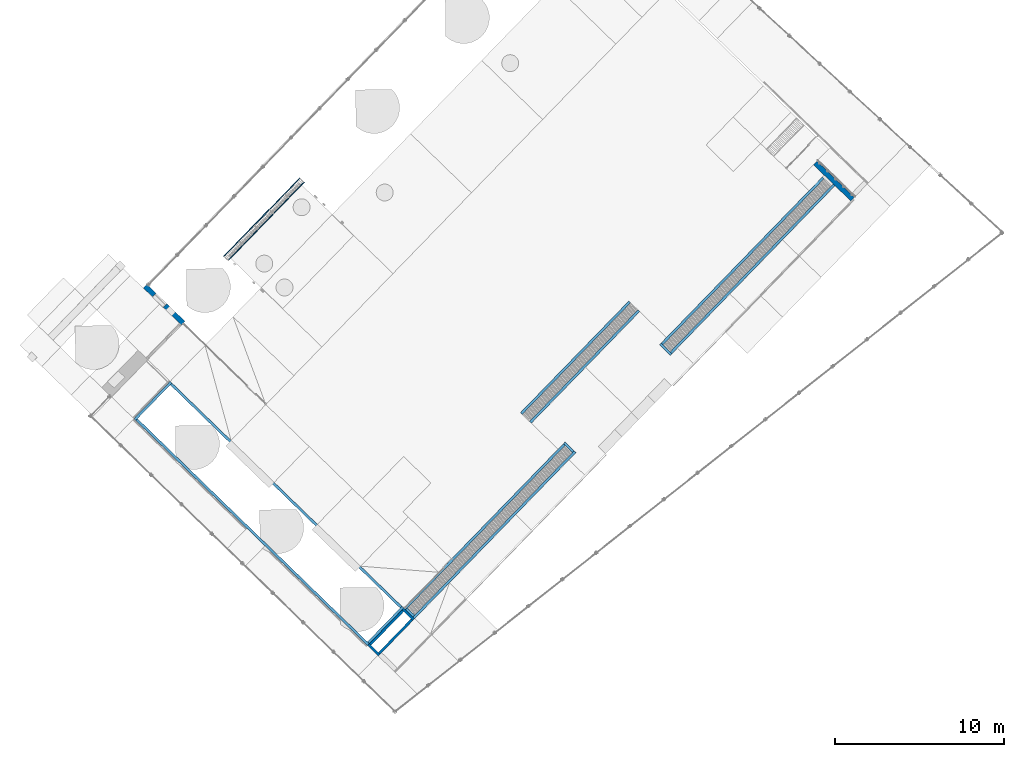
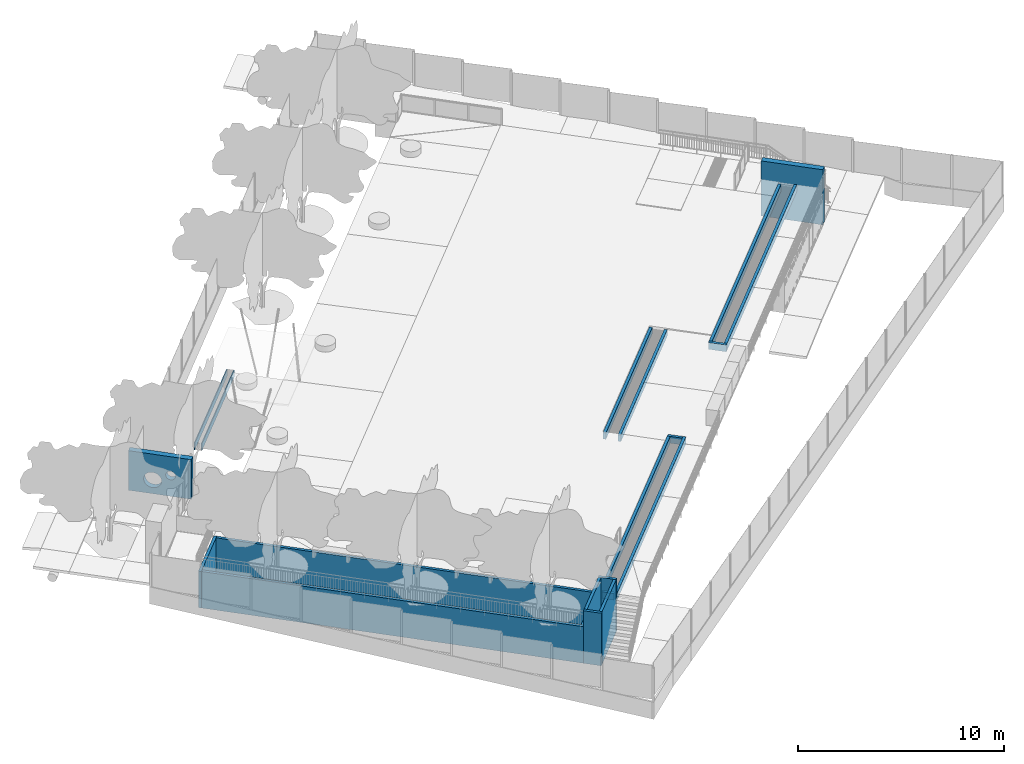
# One storey, part 19 of 37: 21 walls, 2 openings.
"""IFC2X3 building model written with IfcOpenShell, lengths in centimetres."""

from ifc_helpers import new_model, entity, si_unit, converted_unit, derived_unit, direction, frame, frame_2d, origin, place, context, subcontext, project, spatial, rectangle, circle, extrude, material, layer, layer_set, layer_usage, type_object, element, save


model = new_model("IFC2X3")

# Units and contexts
model_context = context("Model", 3, precision=0.001, world=origin(), true_north=direction((0.717475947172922, 0.696583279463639)))
body_context = subcontext(model_context, "Body", "Model", "MODEL_VIEW")
ifc_project = project(units=[si_unit("LENGTHUNIT", "METRE", prefix="CENTI"), si_unit("AREAUNIT", "SQUARE_METRE"), si_unit("VOLUMEUNIT", "CUBIC_METRE"), converted_unit("PLANEANGLEUNIT", "DEGREE", entity("IfcRatioMeasure", 0.0174532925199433), si_unit("PLANEANGLEUNIT", "RADIAN"), dimensions=[0, 0, 0, 0, 0, 0, 0]), si_unit("MASSUNIT", "GRAM", prefix="KILO"), derived_unit("MASSDENSITYUNIT", [(si_unit("MASSUNIT", "GRAM", prefix="KILO"), 1), (si_unit("LENGTHUNIT", "METRE"), -3)]), si_unit("TIMEUNIT", "SECOND"), si_unit("FREQUENCYUNIT", "HERTZ"), si_unit("THERMODYNAMICTEMPERATUREUNIT", "DEGREE_CELSIUS"), derived_unit("THERMALTRANSMITTANCEUNIT", [(si_unit("MASSUNIT", "GRAM", prefix="KILO"), 1), (si_unit("THERMODYNAMICTEMPERATUREUNIT", "KELVIN"), -1), (si_unit("TIMEUNIT", "SECOND"), -3)]), derived_unit("VOLUMETRICFLOWRATEUNIT", [(si_unit("LENGTHUNIT", "METRE"), 3), (si_unit("TIMEUNIT", "SECOND"), -1)]), si_unit("ELECTRICCURRENTUNIT", "AMPERE"), si_unit("ELECTRICVOLTAGEUNIT", "VOLT"), si_unit("POWERUNIT", "WATT"), si_unit("FORCEUNIT", "NEWTON", prefix="KILO"), si_unit("ILLUMINANCEUNIT", "LUX"), si_unit("LUMINOUSFLUXUNIT", "LUMEN"), si_unit("LUMINOUSINTENSITYUNIT", "CANDELA"), derived_unit("USERDEFINED", [(si_unit("MASSUNIT", "GRAM", prefix="KILO"), -1), (si_unit("LENGTHUNIT", "METRE"), -2), (si_unit("TIMEUNIT", "SECOND"), 3), (si_unit("LUMINOUSFLUXUNIT", "LUMEN"), 1)]), derived_unit("LINEARVELOCITYUNIT", [(si_unit("LENGTHUNIT", "METRE"), 1), (si_unit("TIMEUNIT", "SECOND"), -1)]), si_unit("PRESSUREUNIT", "PASCAL"), derived_unit("USERDEFINED", [(si_unit("LENGTHUNIT", "METRE"), -2), (si_unit("MASSUNIT", "GRAM", prefix="KILO"), 1), (si_unit("TIMEUNIT", "SECOND"), -2)])], contexts=[model_context])

# Site, building, storey
site_placement = place(None, frame((0.0, 0.0, 0.0), z_axis=(0.0, 0.0, 1.0), x_axis=(0.696583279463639, 0.717475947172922, 0.0)))
site = spatial("IfcSite", under=ifc_project, at=site_placement, Name="Surface", CompositionType="ELEMENT")
building_placement = place(site_placement, origin())
building = spatial("IfcBuilding", under=site, at=building_placement, CompositionType="ELEMENT")
storey_placement = place(building_placement, origin())
storey = spatial("IfcBuildingStorey", under=building, at=storey_placement, Name="Nivel 0.00", CompositionType="ELEMENT", Elevation=0.0)

# Walls
ifc_material_1 = material(Name="Concrete, Cast-in-Place gray")
ifc_layer_1 = layer(ifc_material_1, 15.0)
ifc_layer_set_1 = layer_set([ifc_layer_1], Name="Basic Wall:ARQ_FND_HA_150mm")
ifc_layer_usage_1 = layer_usage(ifc_layer_set_1, "AXIS2", "POSITIVE", -7.5)
wall_type_1 = type_object("IfcWallType", Name="Basic Wall:ARQ_FND_HA_150mm", PredefinedType="STANDARD", material=ifc_layer_set_1)
wall_1_placement = place(storey_placement, frame((-551.97329106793, -1352.55485725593, 110.0), z_axis=(0.0, 0.0, 1.0), x_axis=(-1.0, 0.0, 0.0)))
element("IfcWallStandardCase", 1, at=wall_1_placement, inside=storey, type_object=wall_type_1, material=ifc_layer_usage_1, Name="Basic Wall:ARQ_FND_HA_150mm", ObjectType="Basic Wall:ARQ_FND_HA_150mm", context=body_context, shape_type="SweptSolid", body=[
    extrude(rectangle(XDim=1353.78385907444, YDim=15.0000000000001, at=frame_2d((676.891929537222, 2.97539770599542e-14), x_axis=(-1.0, 0.0))), origin(), (0.0, 0.0, 1.0), 40.0),
])
ifc_layer_usage_2 = layer_usage(ifc_layer_set_1, "AXIS2", "POSITIVE", -7.5)
wall_2_placement = place(storey_placement, frame((-1898.25715014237, -1360.05485725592, 110.0), z_axis=(0.0, 0.0, 1.0), x_axis=(0.0, -1.0, 0.0)))
element("IfcWallStandardCase", 2, at=wall_2_placement, inside=storey, type_object=wall_type_1, material=ifc_layer_usage_2, Name="Basic Wall:ARQ_FND_HA_150mm", ObjectType="Basic Wall:ARQ_FND_HA_150mm", context=body_context, shape_type="SweptSolid", body=[
    extrude(rectangle(XDim=59.9911451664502, YDim=15.0000000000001, at=frame_2d((29.9955725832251, -4.30766533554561e-14), x_axis=(-1.0, 0.0))), origin(), (0.0, 0.0, 1.0), 40.0),
])
ifc_layer_usage_3 = layer_usage(ifc_layer_set_1, "AXIS2", "POSITIVE", -7.5)
wall_3_placement = place(storey_placement, frame((-1905.75715014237, -1427.54600242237, 110.0)))
element("IfcWallStandardCase", 3, at=wall_3_placement, inside=storey, type_object=wall_type_1, material=ifc_layer_usage_3, Name="Basic Wall:ARQ_FND_HA_150mm", ObjectType="Basic Wall:ARQ_FND_HA_150mm", context=body_context, shape_type="SweptSolid", body=[
    extrude(rectangle(XDim=1368.78385907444, YDim=15.0000000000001, at=frame_2d((684.391929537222, 4.44089209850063e-16), x_axis=(-1.0, 0.0))), origin(), (0.0, 0.0, 1.0), 40.0),
])
ifc_layer_usage_4 = layer_usage(ifc_layer_set_1, "AXIS2", "POSITIVE", -7.5)
wall_4_placement = place(storey_placement, frame((-544.47329106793, -1420.04600242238, 110.0), z_axis=(0.0, 0.0, 1.0), x_axis=(0.0, 1.0, 0.0)))
element("IfcWallStandardCase", 4, at=wall_4_placement, inside=storey, type_object=wall_type_1, material=ifc_layer_usage_4, Name="Basic Wall:ARQ_FND_HA_150mm", ObjectType="Basic Wall:ARQ_FND_HA_150mm", context=body_context, shape_type="SweptSolid", body=[
    extrude(rectangle(XDim=74.9911451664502, YDim=15.0000000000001, at=frame_2d((37.4955725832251, -1.37667655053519e-14), x_axis=(-1.0, 0.0))), origin(), (0.0, 0.0, 1.0), 40.0),
])
ifc_layer_usage_5 = layer_usage(ifc_layer_set_1, "AXIS2", "POSITIVE", -7.5)
wall_5_placement = place(storey_placement, frame((270.248425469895, -1345.05485725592, 110.0), z_axis=(0.0, 0.0, 1.0), x_axis=(0.0, -1.0, 0.0)))
element("IfcWallStandardCase", 5, at=wall_5_placement, inside=storey, type_object=wall_type_1, material=ifc_layer_usage_5, Name="Basic Wall:ARQ_FND_HA_150mm", ObjectType="Basic Wall:ARQ_FND_HA_150mm", context=body_context, shape_type="SweptSolid", body=[
    extrude(rectangle(XDim=89.9911465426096, YDim=15.0000000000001, at=frame_2d((44.9955732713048, -7.99360577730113e-15), x_axis=(-1.0, 0.0))), origin(), (0.0, 0.0, 1.0), 40.0),
])
ifc_layer_usage_6 = layer_usage(ifc_layer_set_1, "AXIS2", "POSITIVE", -7.5)
wall_6_placement = place(storey_placement, frame((277.748425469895, -1427.54600379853, 110.0)))
element("IfcWallStandardCase", 6, at=wall_6_placement, inside=storey, type_object=wall_type_1, material=ifc_layer_usage_6, Name="Basic Wall:ARQ_FND_HA_150mm", ObjectType="Basic Wall:ARQ_FND_HA_150mm", context=body_context, shape_type="SweptSolid", body=[
    extrude(rectangle(XDim=1382.80407940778, YDim=15.0000000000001, at=frame_2d((691.402039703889, -6.70574706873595e-14), x_axis=(-1.0, 0.0))), origin(), (0.0, 0.0, 1.0), 40.0),
])
ifc_layer_usage_7 = layer_usage(ifc_layer_set_1, "AXIS2", "POSITIVE", -7.5)
wall_7_placement = place(storey_placement, frame((1645.55250487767, -1352.55485725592, 110.0), z_axis=(0.0, 0.0, 1.0), x_axis=(-1.0, 0.0, 0.0)))
element("IfcWallStandardCase", 7, at=wall_7_placement, inside=storey, type_object=wall_type_1, material=ifc_layer_usage_7, Name="Basic Wall:ARQ_FND_HA_150mm", ObjectType="Basic Wall:ARQ_FND_HA_150mm", context=body_context, shape_type="SweptSolid", body=[
    extrude(rectangle(XDim=1367.80407940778, YDim=15.0000000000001, at=frame_2d((683.902039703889, 1.06581410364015e-14), x_axis=(-1.0, 0.0))), origin(), (0.0, 0.0, 1.0), 40.0),
])
ifc_layer_usage_8 = layer_usage(ifc_layer_set_1, "AXIS2", "POSITIVE", -7.5)
wall_8_placement = place(storey_placement, frame((-597.005577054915, -1042.55617628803, 110.0)))
element("IfcWallStandardCase", 8, at=wall_8_placement, inside=storey, type_object=wall_type_1, material=ifc_layer_usage_8, Name="Basic Wall:ARQ_FND_HA_150mm", ObjectType="Basic Wall:ARQ_FND_HA_150mm", context=body_context, shape_type="SweptSolid", body=[
    extrude(rectangle(XDim=919.720220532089, YDim=15.0000000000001, at=frame_2d((459.860110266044, -2.70894418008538e-14), x_axis=(-1.0, 0.0))), origin(), (0.0, 0.0, 1.0), 38.0),
])
ifc_layer_usage_9 = layer_usage(ifc_layer_set_1, "AXIS2", "POSITIVE", -7.5)
wall_9_placement = place(storey_placement, frame((-597.005577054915, -1117.55609004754, 110.0)))
element("IfcWallStandardCase", 9, at=wall_9_placement, inside=storey, type_object=wall_type_1, material=ifc_layer_usage_9, Name="Basic Wall:ARQ_FND_HA_150mm", ObjectType="Basic Wall:ARQ_FND_HA_150mm", context=body_context, shape_type="SweptSolid", body=[
    extrude(rectangle(XDim=919.720220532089, YDim=15.0000000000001, at=frame_2d((459.860110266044, 5.41788836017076e-14), x_axis=(-1.0, 0.0))), origin(), (0.0, 0.0, 1.0), 38.0),
])
ifc_layer_usage_10 = layer_usage(ifc_layer_set_1, "AXIS2", "NEGATIVE", 7.5)
wall_10_placement = place(storey_placement, frame((-1905.75708970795, 571.559636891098, -66.0), z_axis=(0.0, 0.0, 1.0), x_axis=(-1.0, 0.0, 0.0)))
element("IfcWallStandardCase", 10, at=wall_10_placement, inside=storey, type_object=wall_type_1, material=ifc_layer_usage_10, Name="Basic Wall:ARQ_FND_HA_150mm", ObjectType="Basic Wall:ARQ_FND_HA_150mm", context=body_context, shape_type="SweptSolid", body=[
    extrude(rectangle(XDim=308.000973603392, YDim=15.0000000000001, at=frame_2d((154.000486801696, 4.70734562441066e-14), x_axis=(-1.0, 0.0))), origin(), (0.0, 0.0, 1.0), 216.0),
])
ifc_layer_usage_11 = layer_usage(ifc_layer_set_1, "AXIS2", "NEGATIVE", 7.5)
wall_11_placement = place(storey_placement, frame((-2206.25806331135, 564.059636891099, -66.0), z_axis=(0.0, 0.0, 1.0), x_axis=(0.0, -1.0, 0.0)))
element("IfcWallStandardCase", 11, at=wall_11_placement, inside=storey, type_object=wall_type_1, material=ifc_layer_usage_11, Name="Basic Wall:ARQ_FND_HA_150mm", ObjectType="Basic Wall:ARQ_FND_HA_150mm", context=body_context, shape_type="SweptSolid", body=[
    extrude(rectangle(XDim=1909.120113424, YDim=15.0000000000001, at=frame_2d((954.560056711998, 1.19904086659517e-14), x_axis=(-1.0, 0.0))), origin(), (0.0, 0.0, 1.0), 216.0),
])
ifc_layer_usage_12 = layer_usage(ifc_layer_set_1, "AXIS2", "NEGATIVE", 7.5)
wall_12_placement = place(storey_placement, frame((-2198.75806331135, -1337.5604765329, -66.0)))
element("IfcWallStandardCase", 12, at=wall_12_placement, inside=storey, type_object=wall_type_1, material=ifc_layer_usage_12, Name="Basic Wall:ARQ_FND_HA_150mm", ObjectType="Basic Wall:ARQ_FND_HA_150mm", context=body_context, shape_type="SweptSolid", body=[
    extrude(rectangle(XDim=293.000973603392, YDim=15.0000000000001, at=frame_2d((146.500486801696, 2.30926389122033e-14), x_axis=(-1.0, 0.0))), origin(), (0.0, 0.0, 1.0), 216.0),
])
ifc_layer_usage_13 = layer_usage(ifc_layer_set_1, "AXIS2", "NEGATIVE", 7.5)
wall_13_placement = place(storey_placement, frame((-1913.25708970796, -1330.0604765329, -66.0), z_axis=(0.0, 0.0, 1.0), x_axis=(0.0, 1.0, 0.0)))
element("IfcWallStandardCase", 13, at=wall_13_placement, inside=storey, type_object=wall_type_1, material=ifc_layer_usage_13, Name="Basic Wall:ARQ_FND_HA_150mm", ObjectType="Basic Wall:ARQ_FND_HA_150mm", context=body_context, shape_type="SweptSolid", body=[
    extrude(rectangle(XDim=1894.120113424, YDim=15.0000000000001, at=frame_2d((947.060056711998, -3.50830475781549e-14), x_axis=(-1.0, 0.0))), origin(), (0.0, 0.0, 1.0), 216.0),
])

# Wall, openings
ifc_material_2 = material(Name="Brick, Common")
ifc_layer_2 = layer(ifc_material_2, 30.0)
ifc_layer_set_2 = layer_set([ifc_layer_2], Name="Basic Wall:ARQ_MUR_EXT_300mm")
ifc_layer_usage_14 = layer_usage(ifc_layer_set_2, "AXIS2", "NEGATIVE", 15.0)
wall_type_2 = type_object("IfcWallType", Name="Basic Wall:ARQ_MUR_EXT_300mm", PredefinedType="STANDARD", material=ifc_layer_set_2)
wall_14_placement = place(storey_placement, frame((-1605.48329211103, 762.923167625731, 140.0), z_axis=(0.0, 0.0, 1.0), x_axis=(0.0, 1.0, 0.0)))
wall_14 = element("IfcWallStandardCase", 14, at=wall_14_placement, inside=storey, type_object=wall_type_2, material=ifc_layer_usage_14, Name="Basic Wall:ARQ_MUR_EXT_300mm", ObjectType="Basic Wall:ARQ_MUR_EXT_300mm", context=body_context, shape_type="SweptSolid", body=[
    extrude(rectangle(XDim=315.0, YDim=30.0000000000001, at=frame_2d((157.5, 0.0), x_axis=(-1.0, 0.0))), origin(), (0.0, 0.0, 1.0), 234.0),
])
opening_1_placement = place(wall_14_placement, frame((149.125, -15.0, 36.0)))
element("IfcOpeningElement", 15, at=opening_1_placement, cuts=wall_14, Name="VENTANA_CAÑO_900:CAÑO_900mm:1", ObjectType="Opening", context=body_context, shape_type="SweptSolid", body=[
    extrude(circle(Radius=45.0, at=frame_2d((45.0, 45.0), x_axis=(1.0, 0.0))), frame((0.0, 0.0, 0.0), z_axis=(0.0, 1.0, 0.0), x_axis=(0.0, 0.0, 1.0)), (0.0, 0.0, 1.0), 30.0),
])
opening_2_placement = place(wall_14_placement, frame((78.8125000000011, -15.0, 97.0)))
element("IfcOpeningElement", 16, at=opening_2_placement, cuts=wall_14, Name="VENTANA_CAÑO_500:CAÑO_500mm:1", ObjectType="Opening", context=body_context, shape_type="SweptSolid", body=[
    extrude(circle(Radius=25.0, at=frame_2d((25.0, 25.0), x_axis=(1.0, 0.0))), frame((0.0, 0.0, 0.0), z_axis=(0.0, 1.0, 0.0), x_axis=(0.0, 0.0, 1.0)), (0.0, 0.0, 1.0), 30.0),
])

# Walls
ifc_layer_usage_15 = layer_usage(ifc_layer_set_2, "AXIS2", "NEGATIVE", 15.0)
wall_15_placement = place(storey_placement, frame((1675.55253341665, -1256.89746349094, -66.0), z_axis=(0.0, 0.0, 1.0), x_axis=(0.0, -1.0, 0.0)))
element("IfcWallStandardCase", 17, at=wall_15_placement, inside=storey, type_object=wall_type_2, material=ifc_layer_usage_15, Name="Basic Wall:ARQ_MUR_EXT_300mm", ObjectType="Basic Wall:ARQ_MUR_EXT_300mm", context=body_context, shape_type="SweptSolid", body=[
    extrude(rectangle(XDim=308.000430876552, YDim=30.0000000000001, at=frame_2d((154.000215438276, 0.0), x_axis=(-1.0, 0.0))), origin(), (0.0, 0.0, 1.0), 326.0),
])
ifc_layer_3 = layer(ifc_material_2, 15.0)
ifc_layer_set_3 = layer_set([ifc_layer_3], Name="Basic Wall:ARQ_FND_LA_150mm")
ifc_layer_usage_16 = layer_usage(ifc_layer_set_3, "AXIS2", "POSITIVE", -7.5)
wall_type_3 = type_object("IfcWallType", Name="Basic Wall:ARQ_FND_LA_150mm", PredefinedType="STANDARD", material=ifc_layer_set_3)
wall_16_placement = place(storey_placement, frame((-2206.25711157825, -1345.05485725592, -66.0), z_axis=(0.0, 0.0, 1.0), x_axis=(0.0, -1.0, 0.0)))
element("IfcWallStandardCase", 18, at=wall_16_placement, inside=storey, type_object=wall_type_3, material=ifc_layer_usage_16, Name="Basic Wall:ARQ_FND_LA_150mm", ObjectType="Basic Wall:ARQ_FND_LA_150mm", context=body_context, shape_type="SweptSolid", body=[
    extrude(rectangle(XDim=89.9911451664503, YDim=15.0000000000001, at=frame_2d((44.9955725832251, 0.0), x_axis=(-1.0, 0.0))), origin(), (0.0, 0.0, 1.0), 311.0),
])
ifc_layer_usage_17 = layer_usage(ifc_layer_set_3, "AXIS2", "NEGATIVE", 7.5)
wall_17_placement = place(storey_placement, frame((-1913.25708970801, -1345.05485725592, -66.0), z_axis=(0.0, 0.0, 1.0), x_axis=(0.0, -1.0, 0.0)))
element("IfcWallStandardCase", 19, at=wall_17_placement, inside=storey, type_object=wall_type_3, material=ifc_layer_usage_17, Name="Basic Wall:ARQ_FND_LA_150mm", ObjectType="Basic Wall:ARQ_FND_LA_150mm", context=body_context, shape_type="SweptSolid", body=[
    extrude(rectangle(XDim=89.9911451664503, YDim=15.0000000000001, at=frame_2d((44.9955725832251, 8.88178419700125e-16), x_axis=(-1.0, 0.0))), origin(), (0.0, 0.0, 1.0), 311.0),
])
ifc_layer_usage_18 = layer_usage(ifc_layer_set_3, "AXIS2", "NEGATIVE", 7.5)
wall_18_placement = place(storey_placement, frame((-1905.75715014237, -1427.54600242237, -66.0), z_axis=(0.0, 0.0, 1.0), x_axis=(-1.0, 0.0, 0.0)))
element("IfcWallStandardCase", 20, at=wall_18_placement, inside=storey, type_object=wall_type_3, material=ifc_layer_usage_18, Name="Basic Wall:ARQ_FND_LA_150mm", ObjectType="Basic Wall:ARQ_FND_LA_150mm", context=body_context, shape_type="SweptSolid", body=[
    extrude(rectangle(XDim=278.00002187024, YDim=15.0000000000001, at=frame_2d((153.999950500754, 6.61692922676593e-14), x_axis=(-1.0, 0.0))), origin(), (0.0, 0.0, 1.0), 311.0),
])
ifc_layer_usage_19 = layer_usage(ifc_layer_set_3, "AXIS2", "NEGATIVE", 7.5)
wall_19_placement = place(storey_placement, frame((-2198.75711157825, -1352.55485725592, -66.0)))
element("IfcWallStandardCase", 21, at=wall_19_placement, inside=storey, type_object=wall_type_3, material=ifc_layer_usage_19, Name="Basic Wall:ARQ_FND_LA_150mm", ObjectType="Basic Wall:ARQ_FND_LA_150mm", context=body_context, shape_type="SweptSolid", body=[
    extrude(rectangle(XDim=278.00002187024, YDim=15.0000000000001, at=frame_2d((139.00001093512, 1.37667655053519e-14), x_axis=(-1.0, 0.0))), origin(), (0.0, 0.0, 1.0), 311.0),
])
ifc_layer_4 = layer(ifc_material_1, 5.0)
ifc_layer_set_4 = layer_set([ifc_layer_4], Name="Basic Wall:ARQ_FND_HA_50mm")
ifc_layer_usage_20 = layer_usage(ifc_layer_set_4, "AXIS2", "NEGATIVE", 2.5)
wall_type_4 = type_object("IfcWallType", Name="Basic Wall:ARQ_FND_HA_50mm", PredefinedType="STANDARD", material=ifc_layer_set_4)
wall_20_placement = place(storey_placement, frame((-1156.01946442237, 865.598169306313, 100.0)))
element("IfcWallStandardCase", 22, at=wall_20_placement, inside=storey, type_object=wall_type_4, material=ifc_layer_usage_20, Name="Basic Wall:ARQ_FND_HA_50mm", ObjectType="Basic Wall:ARQ_FND_HA_50mm", context=body_context, shape_type="SweptSolid", body=[
    extrude(rectangle(XDim=646.510156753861, YDim=4.99999999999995, at=frame_2d((323.255078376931, 0.0), x_axis=(-1.0, 0.0))), origin(), (0.0, 0.0, 1.0), 40.0),
])
ifc_layer_usage_21 = layer_usage(ifc_layer_set_4, "AXIS2", "NEGATIVE", 2.5)
wall_21_placement = place(storey_placement, frame((-509.509307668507, 830.598169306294, 100.0), z_axis=(0.0, 0.0, 1.0), x_axis=(-1.0, 0.0, 0.0)))
element("IfcWallStandardCase", 23, at=wall_21_placement, inside=storey, type_object=wall_type_4, material=ifc_layer_usage_21, Name="Basic Wall:ARQ_FND_HA_50mm", ObjectType="Basic Wall:ARQ_FND_HA_50mm", context=body_context, shape_type="SweptSolid", body=[
    extrude(rectangle(XDim=641.510156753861, YDim=4.99999999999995, at=frame_2d((320.755078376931, 0.0), x_axis=(-1.0, 0.0))), origin(), (0.0, 0.0, 1.0), 40.0),
])

save(model, "model.ifc")
